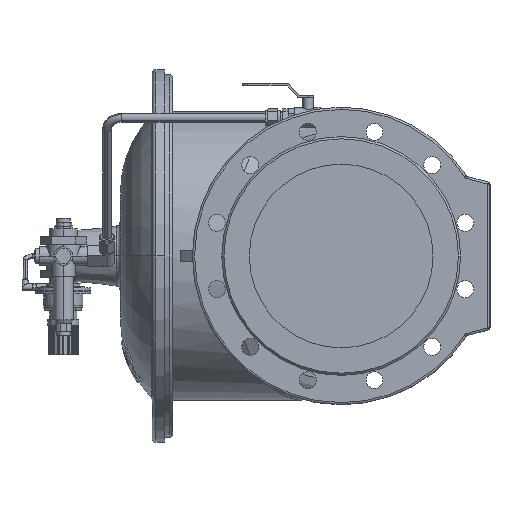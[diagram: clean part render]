
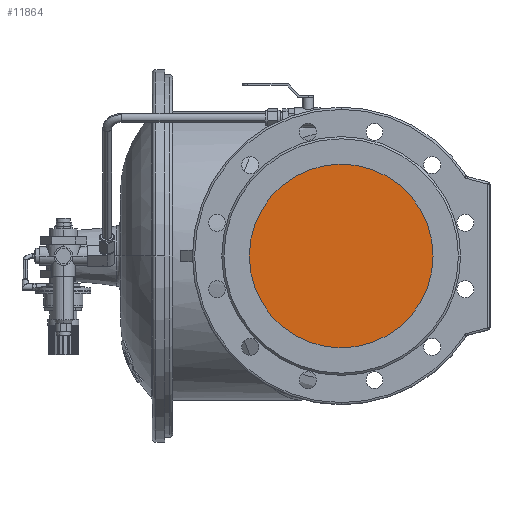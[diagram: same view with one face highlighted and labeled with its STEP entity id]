
A CAD part, left-side view. The second image highlights one B-rep face of the part: STEP entity #11864.
In plain terms, the highlighted planar face has unit normal (-1, 0, 0).
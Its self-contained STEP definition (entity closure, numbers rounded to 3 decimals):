
#2390 = CARTESIAN_POINT ( 'NONE',  ( -347., 0., 0. ) ) ;
#5290 = CARTESIAN_POINT ( 'NONE',  ( -347., 0., -125. ) ) ;
#6621 = DIRECTION ( 'NONE',  ( -1., 0., 0. ) ) ;
#7380 = AXIS2_PLACEMENT_3D ( 'NONE', #14890, #6621, #9568 ) ;
#7544 = CARTESIAN_POINT ( 'NONE',  ( -347., 0., 0. ) ) ;
#9568 = DIRECTION ( 'NONE',  ( 0., -1., 0. ) ) ;
#10165 = EDGE_CURVE ( 'Defeatured_0_861+Defeatured_0_862+Defeatured_0_862+Defeatured_0_862', #33430, #33712, #21173, .T. ) ;
#11864 = ADVANCED_FACE ( 'Defeatured_0_861', ( #16004 ), #30934, .T. ) ;
#14279 = ORIENTED_EDGE ( 'NONE', *, *, #10165, .T. ) ;
#14890 = CARTESIAN_POINT ( 'NONE',  ( -347., 0., 0. ) ) ;
#16004 = FACE_OUTER_BOUND ( 'NONE', #31073, .T. ) ;
#16197 = DIRECTION ( 'NONE',  ( -1., 0., 0. ) ) ;
#18813 = AXIS2_PLACEMENT_3D ( 'NONE', #7544, #16197, #19136 ) ;
#19136 = DIRECTION ( 'NONE',  ( 0., -1., 0. ) ) ;
#19778 = CIRCLE ( 'NONE', #32948, 125. ) ;
#21173 = CIRCLE ( 'NONE', #7380, 125. ) ;
#22133 = ORIENTED_EDGE ( 'NONE', *, *, #30785, .T. ) ;
#26393 = DIRECTION ( 'NONE',  ( -1., 0., 0. ) ) ;
#29518 = DIRECTION ( 'NONE',  ( 0., -1., 0. ) ) ;
#30785 = EDGE_CURVE ( 'Defeatured_0_861+Defeatured_0_862+Defeatured_0_862+Defeatured_0_862', #33712, #33430, #19778, .T. ) ;
#30934 = PLANE ( 'NONE',  #18813 ) ;
#31073 = EDGE_LOOP ( 'NONE', ( #14279, #22133 ) ) ;
#32948 = AXIS2_PLACEMENT_3D ( 'NONE', #2390, #26393, #29518 ) ;
#33430 = VERTEX_POINT ( 'NONE', #34393 ) ;
#33712 = VERTEX_POINT ( 'NONE', #5290 ) ;
#34393 = CARTESIAN_POINT ( 'NONE',  ( -347., 0., 125. ) ) ;
